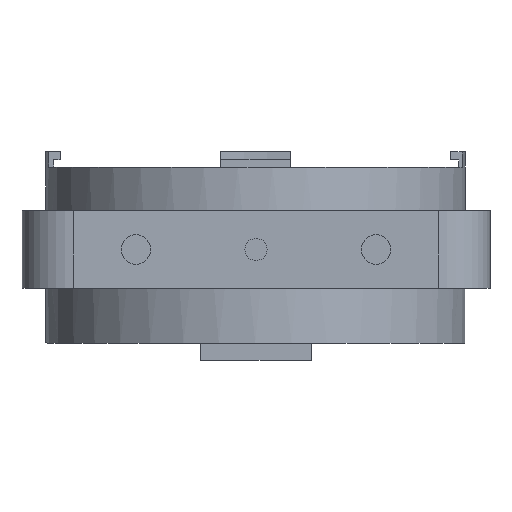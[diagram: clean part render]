
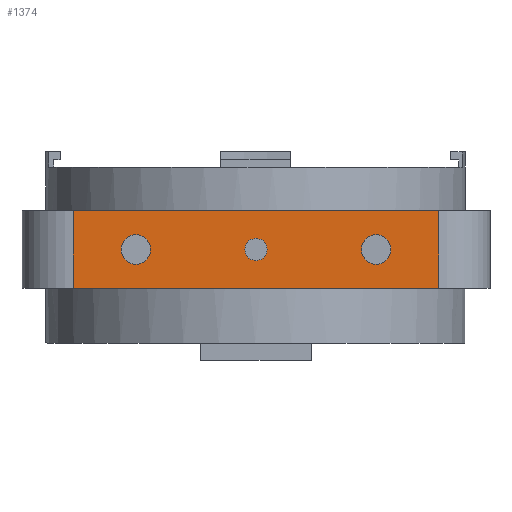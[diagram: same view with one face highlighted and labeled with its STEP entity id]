
A CAD part, front view. The second image highlights one B-rep face of the part: STEP entity #1374.
In plain terms, the highlighted planar face has unit normal (0, -1, -0.001) as drawn and (0, 0, 1) by its records, which use the part's own axes.
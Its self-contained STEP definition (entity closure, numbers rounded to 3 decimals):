
#50=FACE_BOUND('',#255,.T.);
#51=FACE_BOUND('',#256,.T.);
#52=FACE_BOUND('',#257,.T.);
#83=CIRCLE('',#1576,8.6);
#84=CIRCLE('',#1577,6.5);
#85=CIRCLE('',#1578,8.6);
#172=FACE_OUTER_BOUND('',#254,.T.);
#254=EDGE_LOOP('',(#1025,#1026,#1027,#1028));
#255=EDGE_LOOP('',(#1029));
#256=EDGE_LOOP('',(#1030));
#257=EDGE_LOOP('',(#1031));
#356=LINE('',#2218,#486);
#357=LINE('',#2220,#487);
#358=LINE('',#2222,#488);
#359=LINE('',#2223,#489);
#486=VECTOR('',#1805,9.4);
#487=VECTOR('',#1806,45.);
#488=VECTOR('',#1807,212.8);
#489=VECTOR('',#1808,45.);
#621=VERTEX_POINT('',#2216);
#622=VERTEX_POINT('',#2217);
#623=VERTEX_POINT('',#2219);
#624=VERTEX_POINT('',#2221);
#625=VERTEX_POINT('',#2224);
#626=VERTEX_POINT('',#2226);
#627=VERTEX_POINT('',#2228);
#772=EDGE_CURVE('',#621,#622,#356,.T.);
#773=EDGE_CURVE('',#623,#622,#357,.T.);
#774=EDGE_CURVE('',#624,#623,#358,.T.);
#775=EDGE_CURVE('',#624,#621,#359,.T.);
#776=EDGE_CURVE('',#625,#625,#83,.T.);
#777=EDGE_CURVE('',#626,#626,#84,.T.);
#778=EDGE_CURVE('',#627,#627,#85,.T.);
#1025=ORIENTED_EDGE('',*,*,#772,.T.);
#1026=ORIENTED_EDGE('',*,*,#773,.F.);
#1027=ORIENTED_EDGE('',*,*,#774,.F.);
#1028=ORIENTED_EDGE('',*,*,#775,.T.);
#1029=ORIENTED_EDGE('',*,*,#776,.F.);
#1030=ORIENTED_EDGE('',*,*,#777,.F.);
#1031=ORIENTED_EDGE('',*,*,#778,.F.);
#1319=PLANE('',#1575);
#1374=ADVANCED_FACE('',(#172,#50,#51,#52),#1319,.T.);
#1575=AXIS2_PLACEMENT_3D('',#2215,#1803,#1804);
#1576=AXIS2_PLACEMENT_3D('',#2225,#1809,#1810);
#1577=AXIS2_PLACEMENT_3D('',#2227,#1811,#1812);
#1578=AXIS2_PLACEMENT_3D('',#2229,#1813,#1814);
#1803=DIRECTION('center_axis',(0.,0.,1.));
#1804=DIRECTION('ref_axis',(1.,0.,0.));
#1805=DIRECTION('',(1.,0.,0.));
#1806=DIRECTION('',(0.,-1.,0.));
#1807=DIRECTION('',(1.,0.,0.));
#1808=DIRECTION('',(0.,-1.,0.));
#1809=DIRECTION('center_axis',(0.,0.,1.));
#1810=DIRECTION('ref_axis',(1.,0.,0.));
#1811=DIRECTION('center_axis',(0.,0.,1.));
#1812=DIRECTION('ref_axis',(1.,0.,0.));
#1813=DIRECTION('center_axis',(0.,0.,1.));
#1814=DIRECTION('ref_axis',(1.,0.,0.));
#2215=CARTESIAN_POINT('Origin',(-136.4,-22.5,0.));
#2216=CARTESIAN_POINT('',(-106.4,-22.5,0.));
#2217=CARTESIAN_POINT('',(106.4,-22.5,0.));
#2218=CARTESIAN_POINT('',(97.,-22.5,0.));
#2219=CARTESIAN_POINT('',(106.4,22.5,0.));
#2220=CARTESIAN_POINT('',(106.4,22.5,0.));
#2221=CARTESIAN_POINT('',(-106.4,22.5,0.));
#2222=CARTESIAN_POINT('',(-106.4,22.5,0.));
#2223=CARTESIAN_POINT('',(-106.4,22.5,0.));
#2224=CARTESIAN_POINT('',(61.4,0.,0.));
#2225=CARTESIAN_POINT('Origin',(70.,0.,0.));
#2226=CARTESIAN_POINT('',(-6.5,0.,0.));
#2227=CARTESIAN_POINT('Origin',(0.,0.,0.));
#2228=CARTESIAN_POINT('',(-78.6,0.,0.));
#2229=CARTESIAN_POINT('Origin',(-70.,0.,0.));
